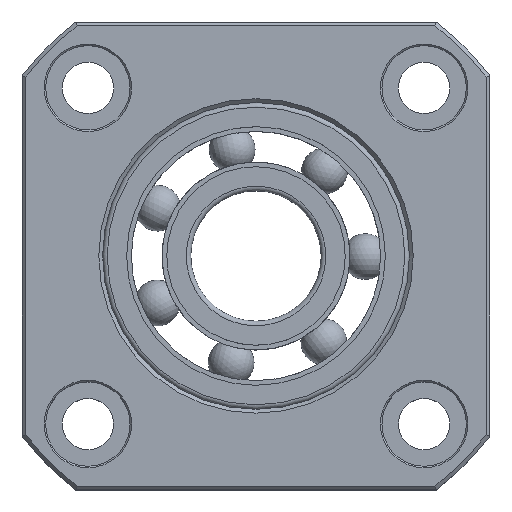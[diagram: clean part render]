
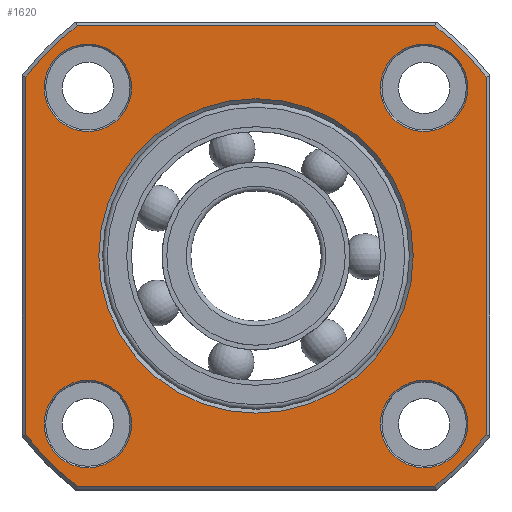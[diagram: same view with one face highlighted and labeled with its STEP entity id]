
A CAD part, top view. The second image highlights one B-rep face of the part: STEP entity #1620.
In plain terms, the highlighted planar face has unit normal (0, 0, 1).
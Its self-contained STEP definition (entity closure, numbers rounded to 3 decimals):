
#113=FACE_BOUND('',#283,.T.);
#114=FACE_BOUND('',#284,.T.);
#115=FACE_BOUND('',#285,.T.);
#116=FACE_BOUND('',#286,.T.);
#117=FACE_BOUND('',#287,.T.);
#146=PLANE('',#1802);
#182=FACE_OUTER_BOUND('',#282,.T.);
#282=EDGE_LOOP('',(#1159,#1160,#1161,#1162,#1163,#1164,#1165,#1166));
#283=EDGE_LOOP('',(#1167));
#284=EDGE_LOOP('',(#1168));
#285=EDGE_LOOP('',(#1169));
#286=EDGE_LOOP('',(#1170));
#287=EDGE_LOOP('',(#1171));
#412=LINE('',#2707,#467);
#413=LINE('',#2711,#468);
#414=LINE('',#2715,#469);
#415=LINE('',#2719,#470);
#467=VECTOR('',#2119,10.);
#468=VECTOR('',#2122,10.);
#469=VECTOR('',#2125,10.);
#470=VECTOR('',#2128,10.);
#526=CIRCLE('',#1799,5.7);
#529=CIRCLE('',#1803,38.);
#530=CIRCLE('',#1804,38.);
#531=CIRCLE('',#1805,38.);
#532=CIRCLE('',#1806,38.);
#533=CIRCLE('',#1807,5.7);
#534=CIRCLE('',#1808,5.7);
#535=CIRCLE('',#1809,20.5);
#536=CIRCLE('',#1810,5.7);
#700=VERTEX_POINT('',#2697);
#703=VERTEX_POINT('',#2705);
#704=VERTEX_POINT('',#2706);
#705=VERTEX_POINT('',#2708);
#706=VERTEX_POINT('',#2710);
#707=VERTEX_POINT('',#2712);
#708=VERTEX_POINT('',#2714);
#709=VERTEX_POINT('',#2716);
#710=VERTEX_POINT('',#2718);
#711=VERTEX_POINT('',#2721);
#712=VERTEX_POINT('',#2723);
#713=VERTEX_POINT('',#2725);
#714=VERTEX_POINT('',#2727);
#897=EDGE_CURVE('',#700,#700,#526,.T.);
#901=EDGE_CURVE('',#703,#704,#412,.T.);
#902=EDGE_CURVE('',#705,#703,#529,.T.);
#903=EDGE_CURVE('',#706,#705,#413,.T.);
#904=EDGE_CURVE('',#707,#706,#530,.T.);
#905=EDGE_CURVE('',#708,#707,#414,.T.);
#906=EDGE_CURVE('',#709,#708,#531,.T.);
#907=EDGE_CURVE('',#710,#709,#415,.T.);
#908=EDGE_CURVE('',#704,#710,#532,.T.);
#909=EDGE_CURVE('',#711,#711,#533,.T.);
#910=EDGE_CURVE('',#712,#712,#534,.T.);
#911=EDGE_CURVE('',#713,#713,#535,.T.);
#912=EDGE_CURVE('',#714,#714,#536,.T.);
#1159=ORIENTED_EDGE('',*,*,#901,.F.);
#1160=ORIENTED_EDGE('',*,*,#902,.F.);
#1161=ORIENTED_EDGE('',*,*,#903,.F.);
#1162=ORIENTED_EDGE('',*,*,#904,.F.);
#1163=ORIENTED_EDGE('',*,*,#905,.F.);
#1164=ORIENTED_EDGE('',*,*,#906,.F.);
#1165=ORIENTED_EDGE('',*,*,#907,.F.);
#1166=ORIENTED_EDGE('',*,*,#908,.F.);
#1167=ORIENTED_EDGE('',*,*,#909,.F.);
#1168=ORIENTED_EDGE('',*,*,#910,.F.);
#1169=ORIENTED_EDGE('',*,*,#911,.F.);
#1170=ORIENTED_EDGE('',*,*,#912,.F.);
#1171=ORIENTED_EDGE('',*,*,#897,.F.);
#1620=ADVANCED_FACE('',(#182,#113,#114,#115,#116,#117),#146,.T.);
#1799=AXIS2_PLACEMENT_3D('',#2698,#2110,#2111);
#1802=AXIS2_PLACEMENT_3D('',#2704,#2117,#2118);
#1803=AXIS2_PLACEMENT_3D('',#2709,#2120,#2121);
#1804=AXIS2_PLACEMENT_3D('',#2713,#2123,#2124);
#1805=AXIS2_PLACEMENT_3D('',#2717,#2126,#2127);
#1806=AXIS2_PLACEMENT_3D('',#2720,#2129,#2130);
#1807=AXIS2_PLACEMENT_3D('',#2722,#2131,#2132);
#1808=AXIS2_PLACEMENT_3D('',#2724,#2133,#2134);
#1809=AXIS2_PLACEMENT_3D('',#2726,#2135,#2136);
#1810=AXIS2_PLACEMENT_3D('',#2728,#2137,#2138);
#2110=DIRECTION('center_axis',(0.,0.,1.));
#2111=DIRECTION('ref_axis',(1.,0.,0.));
#2117=DIRECTION('center_axis',(0.,0.,1.));
#2118=DIRECTION('ref_axis',(1.,0.,0.));
#2119=DIRECTION('',(-1.,0.,0.));
#2120=DIRECTION('center_axis',(0.,0.,-1.));
#2121=DIRECTION('ref_axis',(1.,0.,0.));
#2122=DIRECTION('',(0.,-1.,0.));
#2123=DIRECTION('center_axis',(0.,0.,-1.));
#2124=DIRECTION('ref_axis',(0.,1.,0.));
#2125=DIRECTION('',(1.,0.,0.));
#2126=DIRECTION('center_axis',(0.,0.,-1.));
#2127=DIRECTION('ref_axis',(-1.,0.,0.));
#2128=DIRECTION('',(0.,1.,0.));
#2129=DIRECTION('center_axis',(0.,0.,-1.));
#2130=DIRECTION('ref_axis',(0.,-1.,0.));
#2131=DIRECTION('center_axis',(0.,0.,1.));
#2132=DIRECTION('ref_axis',(0.,1.,0.));
#2133=DIRECTION('center_axis',(0.,0.,1.));
#2134=DIRECTION('ref_axis',(-1.,0.,0.));
#2135=DIRECTION('center_axis',(0.,0.,1.));
#2136=DIRECTION('ref_axis',(-1.,0.,0.));
#2137=DIRECTION('center_axis',(0.,0.,1.));
#2138=DIRECTION('ref_axis',(0.,-1.,0.));
#2697=CARTESIAN_POINT('',(16.22,-21.92,0.));
#2698=CARTESIAN_POINT('Origin',(21.92,-21.92,0.));
#2704=CARTESIAN_POINT('Origin',(-28.193,28.193,0.));
#2705=CARTESIAN_POINT('',(23.324,-30.,0.));
#2706=CARTESIAN_POINT('',(-23.324,-30.,0.));
#2707=CARTESIAN_POINT('',(1.153,-30.,0.));
#2708=CARTESIAN_POINT('',(30.,-23.324,0.));
#2709=CARTESIAN_POINT('Origin',(0.,0.,0.));
#2710=CARTESIAN_POINT('',(30.,23.324,0.));
#2711=CARTESIAN_POINT('',(30.,29.347,0.));
#2712=CARTESIAN_POINT('',(23.324,30.,0.));
#2713=CARTESIAN_POINT('Origin',(0.,0.,0.));
#2714=CARTESIAN_POINT('',(-23.324,30.,0.));
#2715=CARTESIAN_POINT('',(-25.844,30.,0.));
#2716=CARTESIAN_POINT('',(-30.,23.324,0.));
#2717=CARTESIAN_POINT('Origin',(0.,0.,0.));
#2718=CARTESIAN_POINT('',(-30.,-23.324,0.));
#2719=CARTESIAN_POINT('',(-30.,25.844,0.));
#2720=CARTESIAN_POINT('Origin',(0.,0.,0.));
#2721=CARTESIAN_POINT('',(21.92,16.22,0.));
#2722=CARTESIAN_POINT('Origin',(21.92,21.92,0.));
#2723=CARTESIAN_POINT('',(-16.22,21.92,0.));
#2724=CARTESIAN_POINT('Origin',(-21.92,21.92,0.));
#2725=CARTESIAN_POINT('',(20.5,0.,0.));
#2726=CARTESIAN_POINT('Origin',(0.,0.,0.));
#2727=CARTESIAN_POINT('',(-21.92,-16.22,0.));
#2728=CARTESIAN_POINT('Origin',(-21.92,-21.92,0.));
